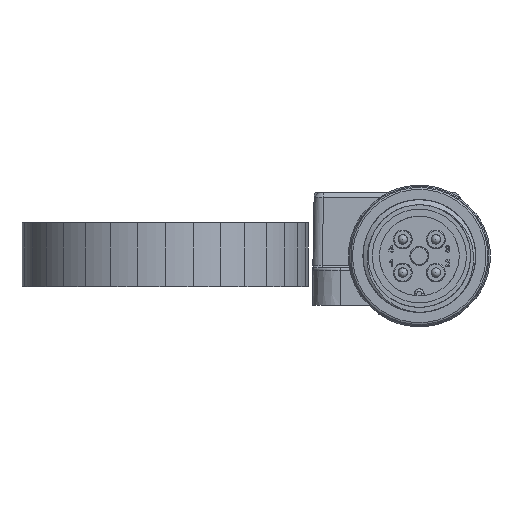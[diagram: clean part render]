
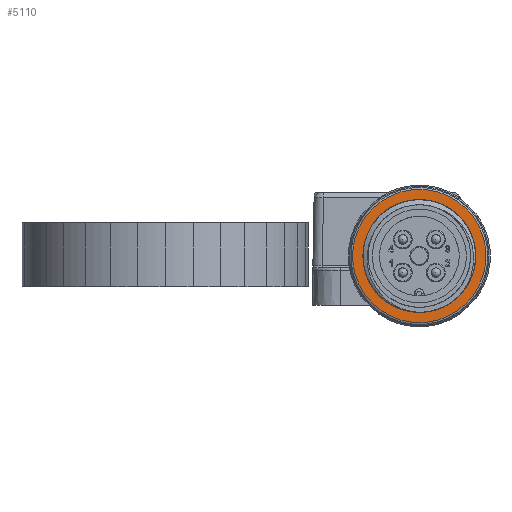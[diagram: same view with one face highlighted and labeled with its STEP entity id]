
A CAD part, left-side view. The second image highlights one B-rep face of the part: STEP entity #5110.
In plain terms, the highlighted planar face has unit normal (-1, 0, 0) as drawn and (0, 1, 0) by its records, which use the part's own axes.
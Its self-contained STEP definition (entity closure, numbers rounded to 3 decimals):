
#336=CIRCLE('',#7705,7.1);
#337=CIRCLE('',#7706,6.);
#338=CIRCLE('',#7707,5.459);
#636=B_SPLINE_CURVE_WITH_KNOTS('',3,(#11010,#11011,#11012,#11013,#11014,
#11015,#11016),.UNSPECIFIED.,.F.,.F.,(4,1,1,1,4),(0.,
0.003,0.006,0.008,0.011),
 .UNSPECIFIED.);
#637=B_SPLINE_CURVE_WITH_KNOTS('',3,(#11020,#11021,#11022,#11023,#11024,
#11025,#11026),.UNSPECIFIED.,.F.,.F.,(4,1,1,1,4),(0.,0.003,
0.006,0.008,0.011),
 .UNSPECIFIED.);
#1719=ORIENTED_EDGE('',*,*,#3017,.T.);
#1720=ORIENTED_EDGE('',*,*,#3018,.T.);
#1721=ORIENTED_EDGE('',*,*,#3019,.F.);
#1722=ORIENTED_EDGE('',*,*,#3020,.F.);
#1723=ORIENTED_EDGE('',*,*,#3021,.F.);
#3017=EDGE_CURVE('',#3688,#3688,#336,.T.);
#3018=EDGE_CURVE('',#3689,#3690,#337,.T.);
#3019=EDGE_CURVE('',#3691,#3690,#636,.T.);
#3020=EDGE_CURVE('',#3692,#3691,#338,.T.);
#3021=EDGE_CURVE('',#3689,#3692,#637,.T.);
#3688=VERTEX_POINT('',#11006);
#3689=VERTEX_POINT('',#11008);
#3690=VERTEX_POINT('',#11009);
#3691=VERTEX_POINT('',#11017);
#3692=VERTEX_POINT('',#11019);
#4068=EDGE_LOOP('',(#1719));
#4069=EDGE_LOOP('',(#1720,#1721,#1722,#1723));
#4522=FACE_BOUND('',#4068,.T.);
#4523=FACE_BOUND('',#4069,.T.);
#4895=PLANE('',#7704);
#5110=ADVANCED_FACE('',(#4522,#4523),#4895,.T.);
#7704=AXIS2_PLACEMENT_3D('',#11004,#8691,#8692);
#7705=AXIS2_PLACEMENT_3D('',#11005,#8693,#8694);
#7706=AXIS2_PLACEMENT_3D('',#11007,#8695,#8696);
#7707=AXIS2_PLACEMENT_3D('',#11018,#8697,#8698);
#8691=DIRECTION('',(0.,1.,0.));
#8692=DIRECTION('',(-0.707,0.,-0.707));
#8693=DIRECTION('',(0.,1.,0.));
#8694=DIRECTION('',(-0.707,0.,-0.707));
#8695=DIRECTION('',(0.,-1.,0.));
#8696=DIRECTION('',(0.707,0.,0.707));
#8697=DIRECTION('',(0.,1.,0.));
#8698=DIRECTION('',(-0.707,0.,-0.707));
#11004=CARTESIAN_POINT('',(5.162,141.5,5.162));
#11005=CARTESIAN_POINT('',(0.,141.5,0.));
#11006=CARTESIAN_POINT('',(-5.02,141.5,-5.02));
#11007=CARTESIAN_POINT('',(0.,141.5,0.));
#11008=CARTESIAN_POINT('',(-4.243,141.5,-4.243));
#11009=CARTESIAN_POINT('',(0.003,141.5,-6.));
#11010=CARTESIAN_POINT('',(5.04,141.5,2.096));
#11011=CARTESIAN_POINT('',(5.448,141.5,1.241));
#11012=CARTESIAN_POINT('',(5.802,141.5,-0.657));
#11013=CARTESIAN_POINT('',(4.893,141.5,-3.424));
#11014=CARTESIAN_POINT('',(2.797,141.5,-5.417));
#11015=CARTESIAN_POINT('',(0.948,141.5,-5.956));
#11016=CARTESIAN_POINT('',(0.003,141.5,-6.));
#11017=CARTESIAN_POINT('',(5.04,141.5,2.096));
#11018=CARTESIAN_POINT('',(0.,141.5,0.));
#11019=CARTESIAN_POINT('',(-2.096,141.5,5.041));
#11020=CARTESIAN_POINT('',(-4.243,141.5,-4.243));
#11021=CARTESIAN_POINT('',(-4.881,141.5,-3.544));
#11022=CARTESIAN_POINT('',(-5.807,141.5,-1.858));
#11023=CARTESIAN_POINT('',(-5.88,141.5,1.044));
#11024=CARTESIAN_POINT('',(-4.567,141.5,3.632));
#11025=CARTESIAN_POINT('',(-2.988,141.5,4.722));
#11026=CARTESIAN_POINT('',(-2.096,141.5,5.041));
